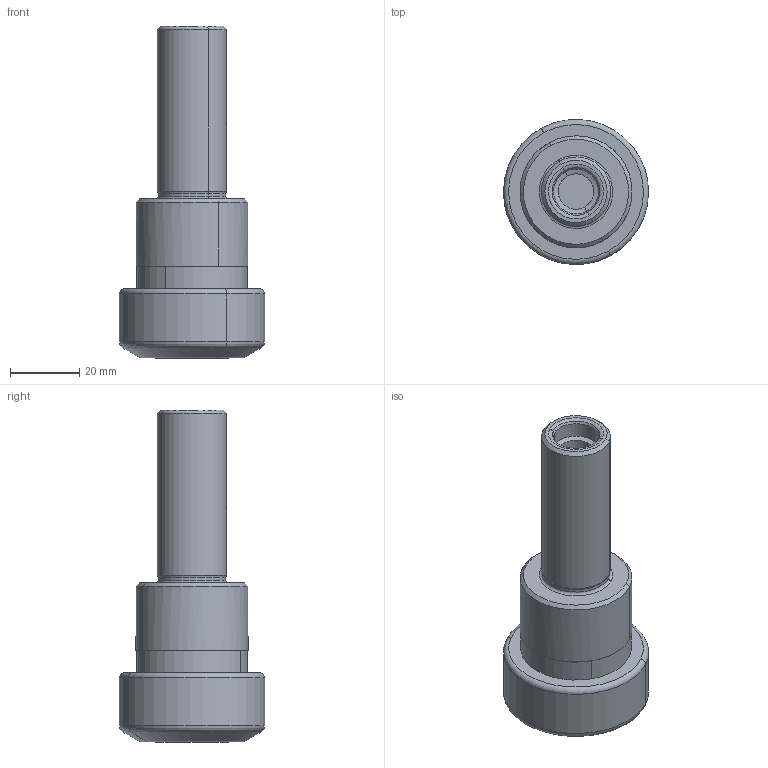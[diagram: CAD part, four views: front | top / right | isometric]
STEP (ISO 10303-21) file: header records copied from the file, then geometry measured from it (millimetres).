
FILE_DESCRIPTION(('CATIA V5 STEP','CAx-IF Rec.Pracs.--- Model Styling and Organization---1.2---2011-12-15'),'2;1');
FILE_NAME('\\nas01\drv1\utils\eitdev\rte\eit\transmagicconvert\db\out\635954614714487297\4508001 LM.stp','2016-04-05T10:58:05+00:00',('none'),('none'),'CATIA Version 5 Release 21 SP 5 (IN-10)','CATIA V5 STEP AP214','none');
FILE_SCHEMA(('AUTOMOTIVE_DESIGN { 1 0 10303 214 1 1 1 1 }'));
Length unit declared in the file: millimetre
Products named in the file (1): ST 20X 50 ER25 F
Bounding box: 41.99 x 41.99 x 96.04 mm (x, y, z)
Volume: 46652 mm3; surface area: 13799.3 mm2
Topology: 1 solids, 1 shells, 57 faces, 120 edges, 70 vertices
Faces by surface type: cylinder 20, cone 16, torus 12, plane 7, extrusion 2
Entity records: 1569 total; most frequent: CARTESIAN_POINT 442, ORIENTED_EDGE 240, DIRECTION 182, EDGE_CURVE 120, AXIS2_PLACEMENT_3D 109, CIRCLE 74, VERTEX_POINT 70, EDGE_LOOP 62
